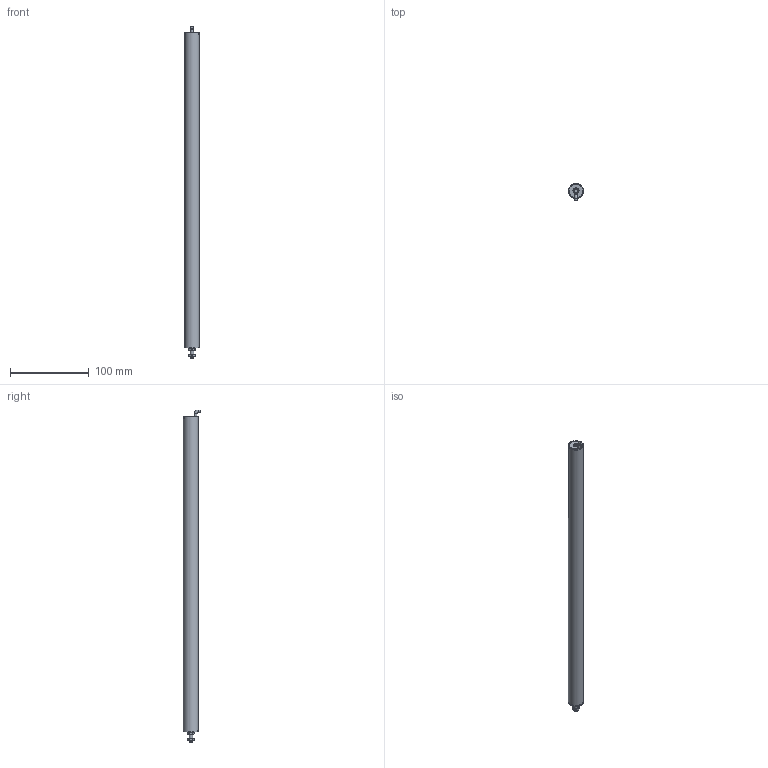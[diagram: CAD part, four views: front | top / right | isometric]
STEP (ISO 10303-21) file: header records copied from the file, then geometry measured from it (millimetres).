
FILE_DESCRIPTION(/* description */ ('ILPS-19Z-XXX-A-00-ZZ shrinkwrapped'),/* implementation_level */ '2;1');
FILE_NAME(/* name */ 'ILPS-19Z-375-A-00-ZZ shrinkwrapped.stp',/* time_stamp */ '2026-08-13T16:13:14-04:00',/* author */ ('Cameron'),/* organization */ ('hgsi'),/* preprocessor_version */ 'ST-DEVELOPER v20.1',/* originating_system */ 'Autodesk Inventor 2027',/* authorisation */ '');
FILE_SCHEMA (('AUTOMOTIVE_DESIGN { 1 0 10303 214 3 1 1 }'));
Length unit declared in the file: inch
Products named in the file (4): ILPS-19Z-250-A-00-ZZ shrinkwrapped; ILPS-19Z-375-A-00-ZZ-A shrinkwrapped body; ILPS-19Z-375 Rod; 8200-0360
Assembly tree (4 placements, depth 2):
  ILPS-19Z-250-A-00-ZZ shrinkwrapped
    ILPS-19Z-375-A-00-ZZ-A shrinkwrapped body
    ILPS-19Z-375 Rod
    8200-0360  x2
Bounding box: 19.05 x 21.89 x 421.45 mm (x, y, z)
Volume: 21058.2 mm3; surface area: 83691.1 mm2
Topology: 6 solids, 6 shells, 95 faces, 226 edges, 149 vertices
Faces by surface type: cylinder 41, plane 33, cone 16, bspline 4, torus 1
Full cylindrical faces by diameter (mm): 3.175 x2, 3.961 x2, 4.75 x1, 4.775 x1, 5 x4, 5.08 x1, 5.944 x2, 5.994 x1, 7.061 x1, 7.137 x2, 18.364 x1, 18.415 x1, 19.05 x1
Entity records: 2811 total; most frequent: CARTESIAN_POINT 1138, DIRECTION 304, ORIENTED_EDGE 302, EDGE_CURVE 151, AXIS2_PLACEMENT_3D 127, VERTEX_POINT 99, EDGE_LOOP 82, FACE_OUTER_BOUND 68
